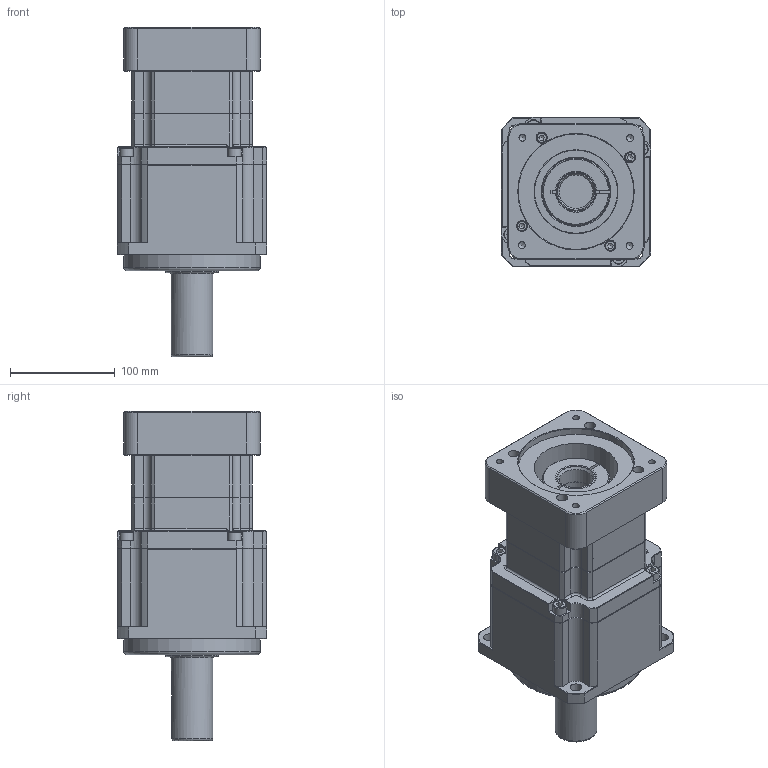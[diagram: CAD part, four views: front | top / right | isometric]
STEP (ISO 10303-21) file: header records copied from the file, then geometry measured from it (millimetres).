
FILE_DESCRIPTION((''),'2;1');
FILE_NAME('C:\인벤터교육\SPI142S015KA\SPI142S015~100KA.stp','2009-11-12T09:53:18',('choejs'),(''),'Autodesk Inventor 2010','Autodesk Inventor 2010','');
FILE_SCHEMA(('AUTOMOTIVE_DESIGN { 1 0 10303 214 1 1 1 1 }'));
Length unit declared in the file: millimetre
Products named in the file (9): SPI142S015KA 조립도; CARRIER CASE(2단); CLAMP RING(2단); INPUT ADAPTER FLANGE(2단); INPUT CASE(2단); OUTPUT CASE(2단); KS B 1003 - M 8 x 20; KS B 1003 - M 6 x 25; KS B 1003 - M 6 x 40
Assembly tree (17 placements, depth 2):
  SPI142S015KA 조립도
    CARRIER CASE(2단)
    CLAMP RING(2단)
    INPUT ADAPTER FLANGE(2단)
    INPUT CASE(2단)
    OUTPUT CASE(2단)
    KS B 1003 - M 8 x 20  x4
    KS B 1003 - M 6 x 25  x4
    KS B 1003 - M 6 x 40  x4
Bounding box: 142 x 142 x 314 mm (x, y, z)
Volume: 3301928 mm3; surface area: 310141.9 mm2
Topology: 17 solids, 17 shells, 595 faces, 1381 edges, 856 vertices
Faces by surface type: plane 277, cylinder 125, cone 99, bspline 74, torus 20
Full cylindrical faces by diameter (mm): 6 x8, 8 x4, 9 x4, 10 x8, 11 x4, 13 x4, 32 x1, 32.2 x1, 36.6 x1, 37 x1, 40 x1, 44.7 x1, 49.7 x1, 65 x1, 80 x2, 100 x2, 103 x1, 108 x1, 110 x1, 130 x2
Entity records: 14023 total; most frequent: CARTESIAN_POINT 3897, DIRECTION 2053, ORIENTED_EDGE 1902, EDGE_CURVE 951, AXIS2_PLACEMENT_3D 803, VERTEX_POINT 646, EDGE_LOOP 633, FACE_OUTER_BOUND 460
